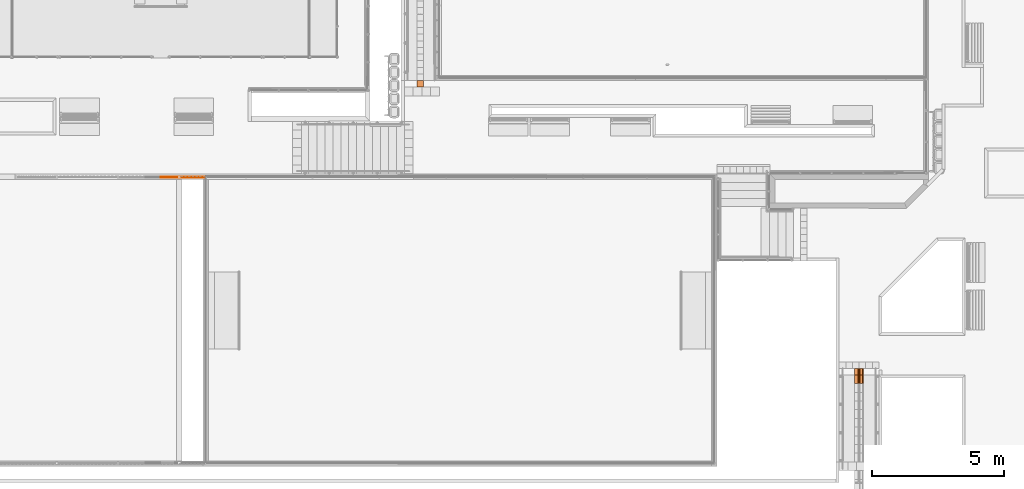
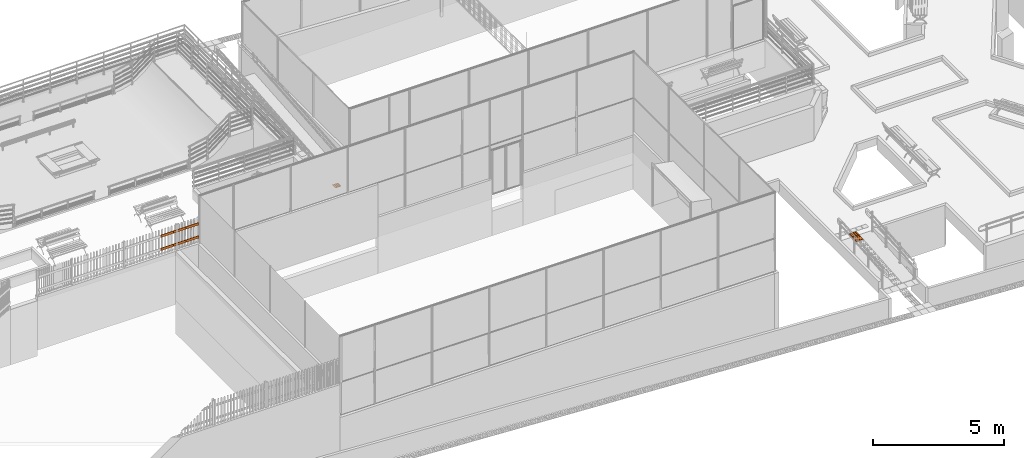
# One storey, part 222 of 237: 9 proxies.
"""IFC2X3 building model written with IfcOpenShell, lengths in millimetres."""

import ifcopenshell
import ifcopenshell.guid

model = None  # the IFC model being written
_history = None  # IfcOwnerHistory: only IFC2X3 demands one
_inside = {}  # id of a spatial element -> (the spatial element, [elements in it])
_under = {}  # id of a project, library or spatial element -> (it, [spatial elements below it])
_declared = {}  # id of a project -> (the project, [libraries it declares])
_typed = {}  # id of a type object -> (the type object, [elements of that type])
_made_of = {}  # id of a material, layer set ... -> (it, [elements and type objects made of it])


def new_model(schema):
    """Start an empty IFC model of exactly this schema.

    Asked for "IFC4X3", IfcOpenShell would pick the latest addendum, in which some entities
    have other attributes; the version numbers below select the first issue.
    IFC2X3 requires an IfcOwnerHistory on every rooted entity: one is made here for all.
    """
    global model, _history
    if schema == "IFC4X3":
        model = ifcopenshell.file(schema_version=(4, 3, 0, 0))
    else:
        model = ifcopenshell.file(schema=schema)
    _inside.clear()
    _under.clear()
    _declared.clear()
    _typed.clear()
    _made_of.clear()
    _history = None
    if model.schema == "IFC2X3":
        org = make("IfcOrganization", Name="unknown")
        user = make(
            "IfcPersonAndOrganization",
            ThePerson=make("IfcPerson", FamilyName="unknown"),
            TheOrganization=org,
        )
        app = make(
            "IfcApplication",
            ApplicationDeveloper=org,
            Version="unknown",
            ApplicationFullName="unknown",
            ApplicationIdentifier="unknown",
        )
        _history = make(
            "IfcOwnerHistory",
            OwningUser=user,
            OwningApplication=app,
            ChangeAction="ADDED",
            CreationDate=0,
        )
    return model


def make(cls, **values):
    """One entity of the class cls with the attributes given. An attribute that is None is left unset."""
    return model.create_entity(
        cls, **{name: value for name, value in values.items() if value is not None}
    )


def entity(cls, *values):
    """Any entity or typed value of the class cls, its attributes in the order of the schema. None: left unset."""
    e = model.create_entity(cls)
    for i, value in enumerate(values):
        if value is not None:
            e[i] = value
    return e


def rooted(cls, **values):
    """An entity with a GlobalId (a new one), such as an element, a storey or a relation."""
    return make(cls, GlobalId=ifcopenshell.guid.new(), OwnerHistory=_history, **values)


def si_unit(unit_type, name, prefix=None):
    """IfcSIUnit, for example si_unit("LENGTHUNIT", "METRE", prefix="MILLI")."""
    return make("IfcSIUnit", UnitType=unit_type, Prefix=prefix, Name=name)


def converted_unit(unit_type, name, factor, base, dimensions=None, offset=None):
    """IfcConversionBasedUnit, such as the inch: factor (a typed value) times the base unit."""
    return make(
        "IfcConversionBasedUnit"
        if offset is None
        else "IfcConversionBasedUnitWithOffset",
        ConversionOffset=offset,
        Dimensions=None
        if dimensions is None
        else entity("IfcDimensionalExponents", *dimensions),
        UnitType=unit_type,
        Name=name,
        ConversionFactor=make(
            "IfcMeasureWithUnit", ValueComponent=factor, UnitComponent=base
        ),
    )


def derived_unit(unit_type, elements):
    """IfcDerivedUnit: a product of units, each with its exponent."""
    return make(
        "IfcDerivedUnit",
        Elements=[
            make("IfcDerivedUnitElement", Unit=unit, Exponent=power)
            for unit, power in elements
        ],
        UnitType=unit_type,
    )


def money_unit(currency):
    """IfcMonetaryUnit."""
    return make("IfcMonetaryUnit", Currency=currency)


def assignment(units):
    """IfcUnitAssignment: the units of a project."""
    return None if units is None else make("IfcUnitAssignment", Units=units)


def point(xyz):
    """IfcCartesianPoint."""
    return None if xyz is None else make("IfcCartesianPoint", Coordinates=xyz)


def direction(xyz):
    """IfcDirection."""
    return None if xyz is None else make("IfcDirection", DirectionRatios=xyz)


def frame(location, z_axis=None, x_axis=None):
    """IfcAxis2Placement3D, a coordinate frame: its origin and axes. An axis left out is left unset."""
    return make(
        "IfcAxis2Placement3D",
        Location=point(location),
        Axis=direction(z_axis),
        RefDirection=direction(x_axis),
    )


def origin_with_axes():
    """The frame at (0, 0, 0) with the z axis (0, 0, 1) and the x axis (1, 0, 0) written out."""
    return frame((0.0, 0.0, 0.0), z_axis=(0.0, 0.0, 1.0), x_axis=(1.0, 0.0, 0.0))


def place(relative_to, where):
    """IfcLocalPlacement: puts the frame where relative to a parent placement (None: the world)."""
    return make(
        "IfcLocalPlacement", PlacementRelTo=relative_to, RelativePlacement=where
    )


def context(
    kind, dimensions, precision=None, world=None, true_north=None, identifier=None
):
    """IfcGeometricRepresentationContext, for example the 3D "Model" context."""
    return make(
        "IfcGeometricRepresentationContext",
        ContextIdentifier=identifier,
        ContextType=kind,
        CoordinateSpaceDimension=dimensions,
        Precision=precision,
        WorldCoordinateSystem=world,
        TrueNorth=true_north,
    )


def subcontext(parent, identifier, kind, view, scale=None):
    """IfcGeometricRepresentationSubContext, for example "Body" below "Model"."""
    return make(
        "IfcGeometricRepresentationSubContext",
        ContextIdentifier=identifier,
        ContextType=kind,
        ParentContext=parent,
        TargetScale=scale,
        TargetView=view,
    )


def project(units=None, contexts=None):
    """IfcProject with its units and contexts."""
    return rooted(
        "IfcProject",
        Name="project",
        RepresentationContexts=contexts,
        UnitsInContext=assignment(units),
    )


def spatial(cls, under=None, at=None, **own):
    """A site, building, storey or space (cls), placed at a placement, below another one or the project."""
    s = rooted(cls, ObjectPlacement=at, **own)
    if under is not None:
        _under.setdefault(under.id(), (under, []))[1].append(s)
    return s


def faces_of(points, faces, orient=None, outer=None):
    """IfcFace entities. A face is a list of loops; a loop is a list of indices into points, from 0.

    orient and outer hold one flag for each loop. By default every Orientation is true, the
    first loop of a face is its IfcFaceOuterBound and the others are IfcFaceBound.
    """
    made = []
    for i, loops in enumerate(faces):
        bounds = []
        for j, loop in enumerate(loops):
            is_outer = j == 0 if outer is None else outer[i][j]
            bounds.append(
                make(
                    "IfcFaceOuterBound" if is_outer else "IfcFaceBound",
                    Bound=make("IfcPolyLoop", Polygon=[points[k] for k in loop]),
                    Orientation=True if orient is None else orient[i][j],
                )
            )
        made.append(make("IfcFace", Bounds=bounds))
    return made


def open_shell(faces, orient=None, outer=None):
    """The faces of one IfcOpenShell. surface_model builds it on its shared points."""
    return ("IfcOpenShell", faces, orient, outer)


def faceted_brep(points, faces, orient=None, outer=None, voids=None):
    """IfcFacetedBrep: a solid bounded by flat faces; with voids (closed shells), ...WithVoids."""
    shared = [point(p) for p in points]
    hull = make("IfcClosedShell", CfsFaces=faces_of(shared, faces, orient, outer))
    if voids is None:
        return make("IfcFacetedBrep", Outer=hull)
    return make(
        "IfcFacetedBrepWithVoids",
        Outer=hull,
        Voids=[
            make(cls, CfsFaces=faces_of(shared, fs, o, b)) for cls, fs, o, b in voids
        ],
    )


def surface_model(cls, points, shells):
    """IfcFaceBasedSurfaceModel or IfcShellBasedSurfaceModel (cls): surfaces that need not close."""
    shared = [point(p) for p in points]
    made = [make(c, CfsFaces=faces_of(shared, fs, o, b)) for c, fs, o, b in shells]
    if cls == "IfcFaceBasedSurfaceModel":
        return make(cls, FbsmFaces=made)
    return make(cls, SbsmBoundary=made)


def shape(context_of_items, identifier, shape_type, items):
    """IfcShapeRepresentation: the items that make up one representation, for example the "Body"."""
    return make(
        "IfcShapeRepresentation",
        ContextOfItems=context_of_items,
        RepresentationIdentifier=identifier,
        RepresentationType=shape_type,
        Items=items,
    )


def made_of(thing, what):
    """Note that an element or type object is made of a material, layer set ...; save() writes the relation."""
    if what is not None:
        _made_of.setdefault(what.id(), (what, []))[1].append(thing)
    return thing


def type_object(cls, material=None, **own):
    """A type object (cls), such as IfcWallType, which elements share."""
    return made_of(rooted(cls, **own), material)


def element(
    cls,
    number,
    at=None,
    inside=None,
    cuts=None,
    type_object=None,
    material=None,
    context=None,
    identifier="Body",
    shape_type=None,
    held_by="IfcProductDefinitionShape",
    body=None,
    shapes=None,
    **own,
):
    """One element of the class cls, such as IfcWall. Its Tag is "e" and its number.

    at: its placement. inside: the storey or other place that contains it. cuts: it is an
    opening in that element (IfcRelVoidsElement). A single representation is given by context,
    identifier, shape_type and body (its items); several are given by shapes. held_by: the class
    of the entity that holds the representations. save() writes the other relations.
    """
    e = rooted(cls, Tag="e%d" % number, ObjectPlacement=at, **own)
    if body is not None:
        shapes = [shape(context, identifier, shape_type, body)]
    if shapes is not None:
        e.Representation = make(held_by, Representations=shapes)
    if inside is not None:
        _inside.setdefault(inside.id(), (inside, []))[1].append(e)
    if cuts is not None:
        rooted(
            "IfcRelVoidsElement", RelatingBuildingElement=cuts, RelatedOpeningElement=e
        )
    if type_object is not None:
        _typed.setdefault(type_object.id(), (type_object, []))[1].append(e)
    return made_of(e, material)


def aggregate(whole, parts):
    """IfcRelAggregates: a whole, such as a stair, and the parts it consists of."""
    return rooted("IfcRelAggregates", RelatingObject=whole, RelatedObjects=parts)


def save(model, path):
    """Write the relations noted so far, then the file.

    IfcRelAggregates (storeys below a building ...), IfcRelContainedInSpatialStructure (elements
    in a storey), IfcRelDefinesByType, IfcRelAssociatesMaterial and IfcRelDeclares: one each for
    every whole, place, type object, material and project.
    """
    for whole, parts in _under.values():
        aggregate(whole, parts)
    for where, things in _inside.values():
        rooted(
            "IfcRelContainedInSpatialStructure",
            RelatedElements=things,
            RelatingStructure=where,
        )
    for kind, things in _typed.values():
        rooted("IfcRelDefinesByType", RelatedObjects=things, RelatingType=kind)
    for what, things in _made_of.values():
        rooted("IfcRelAssociatesMaterial", RelatedObjects=things, RelatingMaterial=what)
    for by, libraries in _declared.values():
        rooted("IfcRelDeclares", RelatingContext=by, RelatedDefinitions=libraries)
    model.write(path)


model = new_model("IFC2X3")

# Units and contexts
model_context = context("Model", 3, precision=0.01, world=origin_with_axes(), true_north=direction((0.0, 1.0)))
body_context = subcontext(model_context, "Body", "Model", "MODEL_VIEW")
ifc_project = project(units=[si_unit("LENGTHUNIT", "METRE", prefix="MILLI"), si_unit("AREAUNIT", "SQUARE_METRE"), si_unit("VOLUMEUNIT", "CUBIC_METRE"), converted_unit("PLANEANGLEUNIT", "DEGREE", entity("IfcPlaneAngleMeasure", 0.0174532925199), si_unit("PLANEANGLEUNIT", "RADIAN"), dimensions=[0, 0, 0, 0, 0, 0, 0]), money_unit("USD"), converted_unit("TIMEUNIT", "Year", entity("IfcTimeMeasure", 31556926.0), si_unit("TIMEUNIT", "SECOND"), dimensions=[0, 0, 1, 0, 0, 0, 0]), si_unit("MASSUNIT", "GRAM", prefix="KILO"), si_unit("THERMODYNAMICTEMPERATUREUNIT", "DEGREE_CELSIUS"), si_unit("LUMINOUSINTENSITYUNIT", "LUMEN"), si_unit("ENERGYUNIT", "JOULE", prefix="MEGA"), derived_unit("THERMALCONDUCTANCEUNIT", [(si_unit("POWERUNIT", "WATT"), 1), (si_unit("LENGTHUNIT", "METRE"), -1), (si_unit("THERMODYNAMICTEMPERATUREUNIT", "KELVIN"), -1)]), derived_unit("SPECIFICHEATCAPACITYUNIT", [(si_unit("ENERGYUNIT", "JOULE"), 1), (si_unit("MASSUNIT", "GRAM", prefix="KILO"), -1), (si_unit("THERMODYNAMICTEMPERATUREUNIT", "KELVIN"), -1)]), derived_unit("MASSDENSITYUNIT", [(si_unit("MASSUNIT", "GRAM", prefix="KILO"), 1), (si_unit("VOLUMEUNIT", "CUBIC_METRE"), -1)])], contexts=[model_context])

# Site, building, storey
site_placement = place(None, origin_with_axes())
site = spatial("IfcSite", under=ifc_project, at=site_placement, Name="Local", CompositionType="ELEMENT")
building_placement = place(site_placement, origin_with_axes())
building = spatial("IfcBuilding", under=site, at=building_placement, Name="Construção", CompositionType="ELEMENT")
storey_placement = place(building_placement, origin_with_axes())
storey = spatial("IfcBuildingStorey", under=building, at=storey_placement, Name="Pavimento Térreo", CompositionType="ELEMENT", Elevation=0.0)

# Proxies
building_element_proxy_type_1 = type_object("IfcBuildingElementProxyType", Name="Piso Direcional 27", PredefinedType="NOTDEFINED")
proxy_1_placement = place(storey_placement, frame((84148.2330476, 15751.0214785, -5022.51904911), z_axis=(0.0, 0.0, 1.0), x_axis=(0.0, 1.0, 0.0)))
element("IfcBuildingElementProxy", 1, at=proxy_1_placement, inside=storey, type_object=building_element_proxy_type_1, Name="Objeto-0055", context=body_context, shape_type="SurfaceModel", body=[
    surface_model("IfcShellBasedSurfaceModel", [(-0.333594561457, -47.258225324, 4.01468455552), (319.875022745, -47.258225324, 30.621968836), (319.322968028, -41.665004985, 37.2657388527), (-0.885649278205, -41.665004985, 10.6584545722)], [open_shell([[[0, 1, 2, 3]]])]),
    surface_model("IfcShellBasedSurfaceModel", [(320.979132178, -153.529411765, 17.3344288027), (320.979132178, 176.470588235, 17.3344288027), (319.875022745, 176.470588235, 30.621968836), (319.875022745, 154.097706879, 30.621968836), (319.322968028, 148.50448654, 37.2657388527), (319.322968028, 126.131605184, 37.2657388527), (319.875022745, 120.538384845, 30.621968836), (319.875022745, 70.1994017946, 30.621968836), (319.322968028, 64.6061814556, 37.2657388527), (319.322968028, 42.2333000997, 37.2657388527), (319.875022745, 36.6400797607, 30.621968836), (319.875022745, -13.6989032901, 30.621968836), (319.322968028, -19.2921236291, 37.2657388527), (319.322968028, -41.665004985, 37.2657388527), (319.875022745, -47.258225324, 30.621968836), (319.875022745, -97.5972083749, 30.621968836), (319.322968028, -103.190428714, 37.2657388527), (319.322968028, -125.56331007, 37.2657388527), (319.875022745, -131.156530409, 30.621968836), (319.875022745, -153.529411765, 30.621968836)], [open_shell([[[0, 1, 2, 3, 4, 5, 6, 7, 8, 9, 10, 11, 12, 13, 14, 15, 16, 17, 18, 19]]])]),
    surface_model("IfcShellBasedSurfaceModel", [(-0.885649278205, -19.2921236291, 10.6584545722), (319.322968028, -19.2921236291, 37.2657388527), (319.875022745, -13.6989032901, 30.621968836), (-0.333594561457, -13.6989032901, 4.01468455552)], [open_shell([[[0, 1, 2, 3]]])]),
    surface_model("IfcShellBasedSurfaceModel", [(-0.885649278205, -103.190428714, 10.6584545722), (319.322968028, -103.190428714, 37.2657388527), (319.875022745, -97.5972083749, 30.621968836), (-0.333594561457, -97.5972083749, 4.01468455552)], [open_shell([[[0, 1, 2, 3]]])]),
    surface_model("IfcShellBasedSurfaceModel", [(-0.885649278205, 64.6061814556, 10.6584545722), (319.322968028, 64.6061814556, 37.2657388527), (319.875022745, 70.1994017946, 30.621968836), (-0.333594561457, 70.1994017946, 4.01468455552)], [open_shell([[[0, 1, 2, 3]]])]),
    surface_model("IfcShellBasedSurfaceModel", [(-0.333594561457, 36.6400797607, 4.01468455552), (319.875022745, 36.6400797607, 30.621968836), (319.322968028, 42.2333000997, 37.2657388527), (-0.885649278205, 42.2333000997, 10.6584545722)], [open_shell([[[0, 1, 2, 3]]])]),
    surface_model("IfcShellBasedSurfaceModel", [(-0.333594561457, -131.156530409, 4.01468455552), (319.875022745, -131.156530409, 30.621968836), (319.322968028, -125.56331007, 37.2657388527), (-0.885649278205, -125.56331007, 10.6584545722)], [open_shell([[[0, 1, 2, 3]]])]),
    surface_model("IfcShellBasedSurfaceModel", [(-0.333594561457, 176.470588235, 4.01468455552), (-0.333594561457, 154.097706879, 4.01468455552), (319.875022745, 154.097706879, 30.621968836), (319.875022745, 176.470588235, 30.621968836)], [open_shell([[[0, 1, 2, 3]]])]),
    surface_model("IfcShellBasedSurfaceModel", [(-0.333594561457, 120.538384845, 4.01468455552), (319.875022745, 120.538384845, 30.621968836), (319.322968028, 126.131605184, 37.2657388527), (-0.885649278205, 126.131605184, 10.6584545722)], [open_shell([[[0, 1, 2, 3]]])]),
    surface_model("IfcShellBasedSurfaceModel", [(-0.885649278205, 148.50448654, 10.6584545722), (319.322968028, 148.50448654, 37.2657388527), (319.875022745, 154.097706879, 30.621968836), (-0.333594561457, 154.097706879, 4.01468455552)], [open_shell([[[0, 1, 2, 3]]])]),
    surface_model("IfcShellBasedSurfaceModel", [(-0.333594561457, 36.6400797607, 4.01468455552), (-0.333594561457, -13.6989032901, 4.01468455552), (319.875022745, -13.6989032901, 30.621968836), (319.875022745, 36.6400797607, 30.621968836)], [open_shell([[[0, 1, 2, 3]]])]),
    surface_model("IfcShellBasedSurfaceModel", [(-0.333594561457, 120.538384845, 4.01468455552), (-0.333594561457, 70.1994017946, 4.01468455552), (319.875022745, 70.1994017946, 30.621968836), (319.875022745, 120.538384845, 30.621968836)], [open_shell([[[0, 1, 2, 3]]])]),
    surface_model("IfcShellBasedSurfaceModel", [(-0.885649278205, 148.50448654, 10.6584545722), (-0.885649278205, 126.131605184, 10.6584545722), (319.322968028, 126.131605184, 37.2657388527), (319.322968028, 148.50448654, 37.2657388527)], [open_shell([[[0, 1, 2, 3]]])]),
    surface_model("IfcShellBasedSurfaceModel", [(-0.333594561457, 120.538384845, 4.01468455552), (-0.885649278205, 126.131605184, 10.6584545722), (-0.885649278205, 148.50448654, 10.6584545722), (-0.333594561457, 154.097706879, 4.01468455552), (-0.333594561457, 176.470588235, 4.01468455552), (0.770514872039, 176.470588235, -9.27285547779), (0.770514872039, -153.529411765, -9.27285547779), (-0.333594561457, -153.529411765, 4.01468455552), (-0.333594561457, -131.156530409, 4.01468455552), (-0.885649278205, -125.56331007, 10.6584545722), (-0.885649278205, -103.190428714, 10.6584545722), (-0.333594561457, -97.5972083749, 4.01468455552), (-0.333594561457, -47.258225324, 4.01468455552), (-0.885649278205, -41.665004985, 10.6584545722), (-0.885649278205, -19.2921236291, 10.6584545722), (-0.333594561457, -13.6989032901, 4.01468455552), (-0.333594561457, 36.6400797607, 4.01468455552), (-0.885649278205, 42.2333000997, 10.6584545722), (-0.885649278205, 64.6061814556, 10.6584545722), (-0.333594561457, 70.1994017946, 4.01468455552)], [open_shell([[[0, 1, 2, 3, 4, 5, 6, 7, 8, 9, 10, 11, 12, 13, 14, 15, 16, 17, 18, 19]]])]),
    surface_model("IfcShellBasedSurfaceModel", [(319.322968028, -41.665004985, 37.2657388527), (319.322968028, -19.2921236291, 37.2657388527), (-0.885649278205, -19.2921236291, 10.6584545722), (-0.885649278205, -41.665004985, 10.6584545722)], [open_shell([[[0, 1, 2, 3]]])]),
    surface_model("IfcShellBasedSurfaceModel", [(-0.333594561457, -47.258225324, 4.01468455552), (-0.333594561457, -97.5972083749, 4.01468455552), (319.875022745, -97.5972083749, 30.621968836), (319.875022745, -47.258225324, 30.621968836)], [open_shell([[[0, 1, 2, 3]]])]),
    surface_model("IfcShellBasedSurfaceModel", [(319.322968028, 42.2333000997, 37.2657388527), (319.322968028, 64.6061814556, 37.2657388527), (-0.885649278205, 64.6061814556, 10.6584545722), (-0.885649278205, 42.2333000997, 10.6584545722)], [open_shell([[[0, 1, 2, 3]]])]),
    surface_model("IfcShellBasedSurfaceModel", [(319.322968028, -125.56331007, 37.2657388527), (319.322968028, -103.190428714, 37.2657388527), (-0.885649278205, -103.190428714, 10.6584545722), (-0.885649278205, -125.56331007, 10.6584545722)], [open_shell([[[0, 1, 2, 3]]])]),
    surface_model("IfcShellBasedSurfaceModel", [(320.979132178, 176.470588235, 17.3344288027), (0.770514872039, 176.470588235, -9.27285547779), (-0.333594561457, 176.470588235, 4.01468455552), (319.875022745, 176.470588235, 30.621968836)], [open_shell([[[0, 1, 2, 3]]])]),
    surface_model("IfcShellBasedSurfaceModel", [(320.979132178, -153.529411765, 17.3344288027), (0.770514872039, -153.529411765, -9.27285547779), (0.770514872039, 176.470588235, -9.27285547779), (320.979132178, 176.470588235, 17.3344288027)], [open_shell([[[0, 1, 2, 3]]])]),
    surface_model("IfcShellBasedSurfaceModel", [(319.875022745, -153.529411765, 30.621968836), (319.875022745, -131.156530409, 30.621968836), (-0.333594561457, -131.156530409, 4.01468455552), (-0.333594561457, -153.529411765, 4.01468455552)], [open_shell([[[0, 1, 2, 3]]])]),
    surface_model("IfcShellBasedSurfaceModel", [(0.770514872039, -153.529411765, -9.27285547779), (320.979132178, -153.529411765, 17.3344288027), (319.875022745, -153.529411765, 30.621968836), (-0.333594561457, -153.529411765, 4.01468455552)], [open_shell([[[0, 1, 2, 3]]])]),
])
proxy_2_placement = place(storey_placement, frame((84148.2330476, 16072.2914521, -4998.00685383), z_axis=(0.0, 0.0, 1.0), x_axis=(0.0, 1.0, 0.0)))
element("IfcBuildingElementProxy", 2, at=proxy_2_placement, inside=storey, type_object=building_element_proxy_type_1, Name="Objeto-0055", context=body_context, shape_type="SurfaceModel", body=[
    surface_model("IfcShellBasedSurfaceModel", [(0.0, -47.258225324, 4.02852049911), (249.51992213, -47.258225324, 4.02852049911), (249.51992213, -41.665004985, 10.6951871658), (0.0, -41.665004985, 10.6951871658)], [open_shell([[[0, 1, 2, 3]]])]),
    surface_model("IfcShellBasedSurfaceModel", [(249.51992213, -153.529411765, -9.30481283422), (249.51992213, 176.470588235, -9.30481283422), (249.51992213, 176.470588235, 4.02852049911), (249.51992213, 154.097706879, 4.02852049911), (249.51992213, 148.50448654, 10.6951871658), (249.51992213, 126.131605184, 10.6951871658), (249.51992213, 120.538384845, 4.02852049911), (249.51992213, 70.1994017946, 4.02852049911), (249.51992213, 64.6061814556, 10.6951871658), (249.51992213, 42.2333000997, 10.6951871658), (249.51992213, 36.6400797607, 4.02852049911), (249.51992213, -13.6989032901, 4.02852049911), (249.51992213, -19.2921236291, 10.6951871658), (249.51992213, -41.665004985, 10.6951871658), (249.51992213, -47.258225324, 4.02852049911), (249.51992213, -97.5972083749, 4.02852049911), (249.51992213, -103.190428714, 10.6951871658), (249.51992213, -125.56331007, 10.6951871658), (249.51992213, -131.156530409, 4.02852049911), (249.51992213, -153.529411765, 4.02852049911)], [open_shell([[[0, 1, 2, 3, 4, 5, 6, 7, 8, 9, 10, 11, 12, 13, 14, 15, 16, 17, 18, 19]]])]),
    surface_model("IfcShellBasedSurfaceModel", [(0.0, -19.2921236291, 10.6951871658), (249.51992213, -19.2921236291, 10.6951871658), (249.51992213, -13.6989032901, 4.02852049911), (0.0, -13.6989032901, 4.02852049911)], [open_shell([[[0, 1, 2, 3]]])]),
    surface_model("IfcShellBasedSurfaceModel", [(0.0, -103.190428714, 10.6951871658), (249.51992213, -103.190428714, 10.6951871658), (249.51992213, -97.5972083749, 4.02852049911), (0.0, -97.5972083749, 4.02852049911)], [open_shell([[[0, 1, 2, 3]]])]),
    surface_model("IfcShellBasedSurfaceModel", [(0.0, 64.6061814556, 10.6951871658), (249.51992213, 64.6061814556, 10.6951871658), (249.51992213, 70.1994017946, 4.02852049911), (0.0, 70.1994017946, 4.02852049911)], [open_shell([[[0, 1, 2, 3]]])]),
    surface_model("IfcShellBasedSurfaceModel", [(0.0, 36.6400797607, 4.02852049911), (249.51992213, 36.6400797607, 4.02852049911), (249.51992213, 42.2333000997, 10.6951871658), (0.0, 42.2333000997, 10.6951871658)], [open_shell([[[0, 1, 2, 3]]])]),
    surface_model("IfcShellBasedSurfaceModel", [(0.0, -131.156530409, 4.02852049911), (249.51992213, -131.156530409, 4.02852049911), (249.51992213, -125.56331007, 10.6951871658), (0.0, -125.56331007, 10.6951871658)], [open_shell([[[0, 1, 2, 3]]])]),
    surface_model("IfcShellBasedSurfaceModel", [(0.0, 176.470588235, 4.02852049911), (0.0, 154.097706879, 4.02852049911), (249.51992213, 154.097706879, 4.02852049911), (249.51992213, 176.470588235, 4.02852049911)], [open_shell([[[0, 1, 2, 3]]])]),
    surface_model("IfcShellBasedSurfaceModel", [(0.0, 120.538384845, 4.02852049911), (249.51992213, 120.538384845, 4.02852049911), (249.51992213, 126.131605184, 10.6951871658), (0.0, 126.131605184, 10.6951871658)], [open_shell([[[0, 1, 2, 3]]])]),
    surface_model("IfcShellBasedSurfaceModel", [(0.0, 148.50448654, 10.6951871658), (249.51992213, 148.50448654, 10.6951871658), (249.51992213, 154.097706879, 4.02852049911), (0.0, 154.097706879, 4.02852049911)], [open_shell([[[0, 1, 2, 3]]])]),
    surface_model("IfcShellBasedSurfaceModel", [(0.0, 36.6400797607, 4.02852049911), (0.0, -13.6989032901, 4.02852049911), (249.51992213, -13.6989032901, 4.02852049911), (249.51992213, 36.6400797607, 4.02852049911)], [open_shell([[[0, 1, 2, 3]]])]),
    surface_model("IfcShellBasedSurfaceModel", [(0.0, 120.538384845, 4.02852049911), (0.0, 70.1994017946, 4.02852049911), (249.51992213, 70.1994017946, 4.02852049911), (249.51992213, 120.538384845, 4.02852049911)], [open_shell([[[0, 1, 2, 3]]])]),
    surface_model("IfcShellBasedSurfaceModel", [(0.0, 148.50448654, 10.6951871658), (0.0, 126.131605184, 10.6951871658), (249.51992213, 126.131605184, 10.6951871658), (249.51992213, 148.50448654, 10.6951871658)], [open_shell([[[0, 1, 2, 3]]])]),
    surface_model("IfcShellBasedSurfaceModel", [(0.0, 120.538384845, 4.02852049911), (0.0, 126.131605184, 10.6951871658), (0.0, 148.50448654, 10.6951871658), (0.0, 154.097706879, 4.02852049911), (0.0, 176.470588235, 4.02852049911), (0.0, 176.470588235, -9.30481283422), (0.0, -153.529411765, -9.30481283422), (0.0, -153.529411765, 4.02852049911), (0.0, -131.156530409, 4.02852049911), (0.0, -125.56331007, 10.6951871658), (0.0, -103.190428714, 10.6951871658), (0.0, -97.5972083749, 4.02852049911), (0.0, -47.258225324, 4.02852049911), (0.0, -41.665004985, 10.6951871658), (0.0, -19.2921236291, 10.6951871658), (0.0, -13.6989032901, 4.02852049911), (0.0, 36.6400797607, 4.02852049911), (0.0, 42.2333000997, 10.6951871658), (0.0, 64.6061814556, 10.6951871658), (0.0, 70.1994017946, 4.02852049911)], [open_shell([[[0, 1, 2, 3, 4, 5, 6, 7, 8, 9, 10, 11, 12, 13, 14, 15, 16, 17, 18, 19]]])]),
    surface_model("IfcShellBasedSurfaceModel", [(249.51992213, -41.665004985, 10.6951871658), (249.51992213, -19.2921236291, 10.6951871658), (0.0, -19.2921236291, 10.6951871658), (0.0, -41.665004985, 10.6951871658)], [open_shell([[[0, 1, 2, 3]]])]),
    surface_model("IfcShellBasedSurfaceModel", [(0.0, -47.258225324, 4.02852049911), (0.0, -97.5972083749, 4.02852049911), (249.51992213, -97.5972083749, 4.02852049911), (249.51992213, -47.258225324, 4.02852049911)], [open_shell([[[0, 1, 2, 3]]])]),
    surface_model("IfcShellBasedSurfaceModel", [(249.51992213, 42.2333000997, 10.6951871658), (249.51992213, 64.6061814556, 10.6951871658), (0.0, 64.6061814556, 10.6951871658), (0.0, 42.2333000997, 10.6951871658)], [open_shell([[[0, 1, 2, 3]]])]),
    surface_model("IfcShellBasedSurfaceModel", [(249.51992213, -125.56331007, 10.6951871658), (249.51992213, -103.190428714, 10.6951871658), (0.0, -103.190428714, 10.6951871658), (0.0, -125.56331007, 10.6951871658)], [open_shell([[[0, 1, 2, 3]]])]),
    surface_model("IfcShellBasedSurfaceModel", [(249.51992213, 176.470588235, -9.30481283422), (0.0, 176.470588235, -9.30481283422), (0.0, 176.470588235, 4.02852049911), (249.51992213, 176.470588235, 4.02852049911)], [open_shell([[[0, 1, 2, 3]]])]),
    surface_model("IfcShellBasedSurfaceModel", [(249.51992213, -153.529411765, -9.30481283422), (0.0, -153.529411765, -9.30481283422), (0.0, 176.470588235, -9.30481283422), (249.51992213, 176.470588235, -9.30481283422)], [open_shell([[[0, 1, 2, 3]]])]),
    surface_model("IfcShellBasedSurfaceModel", [(249.51992213, -153.529411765, 4.02852049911), (249.51992213, -131.156530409, 4.02852049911), (0.0, -131.156530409, 4.02852049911), (0.0, -153.529411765, 4.02852049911)], [open_shell([[[0, 1, 2, 3]]])]),
    surface_model("IfcShellBasedSurfaceModel", [(0.0, -153.529411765, -9.30481283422), (249.51992213, -153.529411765, -9.30481283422), (249.51992213, -153.529411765, 4.02852049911), (0.0, -153.529411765, 4.02852049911)], [open_shell([[[0, 1, 2, 3]]])]),
])
proxy_3_placement = place(storey_placement, frame((67571.980088, 26942.3085044, -3504.07436082), z_axis=(0.0, 0.0, 1.0), x_axis=(0.0, 1.0, 0.0)))
element("IfcBuildingElementProxy", 3, at=proxy_3_placement, inside=storey, type_object=building_element_proxy_type_1, Name="Objeto-0055", context=body_context, shape_type="SurfaceModel", body=[
    surface_model("IfcShellBasedSurfaceModel", [(0.0, -35.8016858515, 4.02852049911), (251.227104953, -35.8016858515, 4.02852049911), (251.227104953, -31.5643977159, 10.6951871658), (0.0, -31.5643977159, 10.6951871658)], [open_shell([[[0, 1, 2, 3]]])]),
    surface_model("IfcShellBasedSurfaceModel", [(251.227104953, -116.310160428, -9.30481283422), (251.227104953, 133.689839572, -9.30481283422), (251.227104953, 133.689839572, 4.02852049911), (251.227104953, 116.74068703, 4.02852049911), (251.227104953, 112.503398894, 10.6951871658), (251.227104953, 95.5542463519, 10.6951871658), (251.227104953, 91.3169582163, 4.02852049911), (251.227104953, 53.1813649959, 4.02852049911), (251.227104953, 48.9440768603, 10.6951871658), (251.227104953, 31.994924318, 10.6951871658), (251.227104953, 27.7576361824, 4.02852049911), (251.227104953, -10.377957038, 4.02852049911), (251.227104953, -14.6152451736, 10.6951871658), (251.227104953, -31.5643977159, 10.6951871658), (251.227104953, -35.8016858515, 4.02852049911), (251.227104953, -73.9372790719, 4.02852049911), (251.227104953, -78.1745672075, 10.6951871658), (251.227104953, -95.1237197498, 10.6951871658), (251.227104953, -99.3610078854, 4.02852049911), (251.227104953, -116.310160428, 4.02852049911)], [open_shell([[[0, 1, 2, 3, 4, 5, 6, 7, 8, 9, 10, 11, 12, 13, 14, 15, 16, 17, 18, 19]]])]),
    surface_model("IfcShellBasedSurfaceModel", [(0.0, -14.6152451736, 10.6951871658), (251.227104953, -14.6152451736, 10.6951871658), (251.227104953, -10.377957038, 4.02852049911), (0.0, -10.377957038, 4.02852049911)], [open_shell([[[0, 1, 2, 3]]])]),
    surface_model("IfcShellBasedSurfaceModel", [(0.0, -78.1745672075, 10.6951871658), (251.227104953, -78.1745672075, 10.6951871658), (251.227104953, -73.9372790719, 4.02852049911), (0.0, -73.9372790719, 4.02852049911)], [open_shell([[[0, 1, 2, 3]]])]),
    surface_model("IfcShellBasedSurfaceModel", [(0.0, 48.9440768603, 10.6951871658), (251.227104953, 48.9440768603, 10.6951871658), (251.227104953, 53.1813649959, 4.02852049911), (0.0, 53.1813649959, 4.02852049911)], [open_shell([[[0, 1, 2, 3]]])]),
    surface_model("IfcShellBasedSurfaceModel", [(0.0, 27.7576361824, 4.02852049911), (251.227104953, 27.7576361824, 4.02852049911), (251.227104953, 31.994924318, 10.6951871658), (0.0, 31.994924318, 10.6951871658)], [open_shell([[[0, 1, 2, 3]]])]),
    surface_model("IfcShellBasedSurfaceModel", [(0.0, -99.3610078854, 4.02852049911), (251.227104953, -99.3610078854, 4.02852049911), (251.227104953, -95.1237197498, 10.6951871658), (0.0, -95.1237197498, 10.6951871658)], [open_shell([[[0, 1, 2, 3]]])]),
    surface_model("IfcShellBasedSurfaceModel", [(0.0, 133.689839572, 4.02852049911), (0.0, 116.74068703, 4.02852049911), (251.227104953, 116.74068703, 4.02852049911), (251.227104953, 133.689839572, 4.02852049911)], [open_shell([[[0, 1, 2, 3]]])]),
    surface_model("IfcShellBasedSurfaceModel", [(0.0, 91.3169582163, 4.02852049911), (251.227104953, 91.3169582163, 4.02852049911), (251.227104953, 95.5542463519, 10.6951871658), (0.0, 95.5542463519, 10.6951871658)], [open_shell([[[0, 1, 2, 3]]])]),
    surface_model("IfcShellBasedSurfaceModel", [(0.0, 112.503398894, 10.6951871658), (251.227104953, 112.503398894, 10.6951871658), (251.227104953, 116.74068703, 4.02852049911), (0.0, 116.74068703, 4.02852049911)], [open_shell([[[0, 1, 2, 3]]])]),
    surface_model("IfcShellBasedSurfaceModel", [(0.0, 27.7576361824, 4.02852049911), (0.0, -10.377957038, 4.02852049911), (251.227104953, -10.377957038, 4.02852049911), (251.227104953, 27.7576361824, 4.02852049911)], [open_shell([[[0, 1, 2, 3]]])]),
    surface_model("IfcShellBasedSurfaceModel", [(0.0, 91.3169582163, 4.02852049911), (0.0, 53.1813649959, 4.02852049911), (251.227104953, 53.1813649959, 4.02852049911), (251.227104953, 91.3169582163, 4.02852049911)], [open_shell([[[0, 1, 2, 3]]])]),
    surface_model("IfcShellBasedSurfaceModel", [(0.0, 112.503398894, 10.6951871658), (0.0, 95.5542463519, 10.6951871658), (251.227104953, 95.5542463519, 10.6951871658), (251.227104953, 112.503398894, 10.6951871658)], [open_shell([[[0, 1, 2, 3]]])]),
    surface_model("IfcShellBasedSurfaceModel", [(0.0, 91.3169582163, 4.02852049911), (0.0, 95.5542463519, 10.6951871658), (0.0, 112.503398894, 10.6951871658), (0.0, 116.74068703, 4.02852049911), (0.0, 133.689839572, 4.02852049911), (0.0, 133.689839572, -9.30481283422), (0.0, -116.310160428, -9.30481283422), (0.0, -116.310160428, 4.02852049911), (0.0, -99.3610078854, 4.02852049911), (0.0, -95.1237197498, 10.6951871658), (0.0, -78.1745672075, 10.6951871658), (0.0, -73.9372790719, 4.02852049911), (0.0, -35.8016858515, 4.02852049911), (0.0, -31.5643977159, 10.6951871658), (0.0, -14.6152451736, 10.6951871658), (0.0, -10.377957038, 4.02852049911), (0.0, 27.7576361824, 4.02852049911), (0.0, 31.994924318, 10.6951871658), (0.0, 48.9440768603, 10.6951871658), (0.0, 53.1813649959, 4.02852049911)], [open_shell([[[0, 1, 2, 3, 4, 5, 6, 7, 8, 9, 10, 11, 12, 13, 14, 15, 16, 17, 18, 19]]])]),
    surface_model("IfcShellBasedSurfaceModel", [(251.227104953, -31.5643977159, 10.6951871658), (251.227104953, -14.6152451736, 10.6951871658), (0.0, -14.6152451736, 10.6951871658), (0.0, -31.5643977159, 10.6951871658)], [open_shell([[[0, 1, 2, 3]]])]),
    surface_model("IfcShellBasedSurfaceModel", [(0.0, -35.8016858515, 4.02852049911), (0.0, -73.9372790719, 4.02852049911), (251.227104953, -73.9372790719, 4.02852049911), (251.227104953, -35.8016858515, 4.02852049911)], [open_shell([[[0, 1, 2, 3]]])]),
    surface_model("IfcShellBasedSurfaceModel", [(251.227104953, 31.994924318, 10.6951871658), (251.227104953, 48.9440768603, 10.6951871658), (0.0, 48.9440768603, 10.6951871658), (0.0, 31.994924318, 10.6951871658)], [open_shell([[[0, 1, 2, 3]]])]),
    surface_model("IfcShellBasedSurfaceModel", [(251.227104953, -95.1237197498, 10.6951871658), (251.227104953, -78.1745672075, 10.6951871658), (0.0, -78.1745672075, 10.6951871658), (0.0, -95.1237197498, 10.6951871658)], [open_shell([[[0, 1, 2, 3]]])]),
    surface_model("IfcShellBasedSurfaceModel", [(251.227104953, 133.689839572, -9.30481283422), (0.0, 133.689839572, -9.30481283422), (0.0, 133.689839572, 4.02852049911), (251.227104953, 133.689839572, 4.02852049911)], [open_shell([[[0, 1, 2, 3]]])]),
    surface_model("IfcShellBasedSurfaceModel", [(251.227104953, -116.310160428, -9.30481283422), (0.0, -116.310160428, -9.30481283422), (0.0, 133.689839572, -9.30481283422), (251.227104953, 133.689839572, -9.30481283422)], [open_shell([[[0, 1, 2, 3]]])]),
    surface_model("IfcShellBasedSurfaceModel", [(251.227104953, -116.310160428, 4.02852049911), (251.227104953, -99.3610078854, 4.02852049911), (0.0, -99.3610078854, 4.02852049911), (0.0, -116.310160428, 4.02852049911)], [open_shell([[[0, 1, 2, 3]]])]),
    surface_model("IfcShellBasedSurfaceModel", [(0.0, -116.310160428, -9.30481283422), (251.227104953, -116.310160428, -9.30481283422), (251.227104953, -116.310160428, 4.02852049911), (0.0, -116.310160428, 4.02852049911)], [open_shell([[[0, 1, 2, 3]]])]),
])
building_element_proxy_type_2 = type_object("IfcBuildingElementProxyType", Name="FALTA", PredefinedType="NOTDEFINED")
proxy_4_placement = place(storey_placement, frame((59431.6965585, 23580.2435218, -1173.86351895), z_axis=(0.0, 0.0, 1.0), x_axis=(-1.0, 0.0, 0.0)))
element("IfcBuildingElementProxy", 4, at=proxy_4_placement, inside=storey, type_object=building_element_proxy_type_2, Name="Objeto-0044", context=body_context, shape_type="Brep", body=[
    faceted_brep([(1117.48391965, 23.3659780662, 195.226757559), (1676.22587947, 23.3659780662, 195.226757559), (1676.22587947, 23.3659780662, 312.362812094), (1117.48391965, 23.3659780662, 312.362812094), (1117.48391965, 46.7319561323, 195.226757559), (1676.22587947, 46.7319561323, 195.226757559), (1676.22587947, 46.7319561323, 312.362812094), (1117.48391965, 46.7319561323, 312.362812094)], [[[0, 1, 2, 3]], [[1, 0, 4, 5]], [[1, 5, 6, 2]], [[7, 3, 2, 6]], [[4, 0, 3, 7]], [[5, 4, 7, 6]]]),
])
proxy_5_placement = place(storey_placement, frame((59431.6965585, 23580.2435218, -1173.86351895), z_axis=(0.0, 0.0, 1.0), x_axis=(-1.0, 0.0, 0.0)))
element("IfcBuildingElementProxy", 5, at=proxy_5_placement, inside=storey, type_object=building_element_proxy_type_2, Name="Objeto-0044", context=body_context, shape_type="Brep", body=[
    faceted_brep([(1117.48391965, 23.3659780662, 927.327098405), (1117.48391965, 23.3659780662, 810.191043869), (1676.22587947, 23.3659780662, 810.191043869), (1676.22587947, 23.3659780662, 927.327098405), (1117.48391965, 46.7319561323, 927.327098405), (1117.48391965, 46.7319561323, 810.191043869), (1676.22587947, 46.7319561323, 810.191043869), (1676.22587947, 46.7319561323, 927.327098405)], [[[0, 1, 2, 3]], [[1, 0, 4, 5]], [[2, 1, 5, 6]], [[3, 2, 6, 7]], [[4, 0, 3, 7]], [[5, 4, 7, 6]]]),
])
proxy_6_placement = place(storey_placement, frame((59431.6965585, 23580.2435218, -1173.86351895), z_axis=(0.0, 0.0, 1.0), x_axis=(-1.0, 0.0, 0.0)))
element("IfcBuildingElementProxy", 6, at=proxy_6_placement, inside=storey, type_object=building_element_proxy_type_2, Name="Objeto-0044", context=body_context, shape_type="Brep", body=[
    faceted_brep([(558.741959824, 23.3659780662, 927.327098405), (558.741959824, 23.3659780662, 810.191043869), (1117.48391965, 23.3659780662, 810.191043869), (1117.48391965, 23.3659780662, 927.327098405), (558.741959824, 46.7319561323, 927.327098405), (558.741959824, 46.7319561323, 810.191043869), (1117.48391965, 46.7319561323, 810.191043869), (1117.48391965, 46.7319561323, 927.327098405)], [[[0, 1, 2, 3]], [[1, 0, 4, 5]], [[2, 1, 5, 6]], [[3, 2, 6, 7]], [[4, 0, 3, 7]], [[5, 4, 7, 6]]]),
])
proxy_7_placement = place(storey_placement, frame((59431.6965585, 23580.2435218, -1173.86351895), z_axis=(0.0, 0.0, 1.0), x_axis=(-1.0, 0.0, 0.0)))
element("IfcBuildingElementProxy", 7, at=proxy_7_placement, inside=storey, type_object=building_element_proxy_type_2, Name="Objeto-0044", context=body_context, shape_type="Brep", body=[
    faceted_brep([(0.0, 23.3659780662, 195.226757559), (558.741959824, 23.3659780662, 195.226757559), (558.741959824, 23.3659780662, 312.362812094), (0.0, 23.3659780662, 312.362812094), (0.0, 46.7319561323, 195.226757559), (558.741959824, 46.7319561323, 195.226757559), (558.741959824, 46.7319561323, 312.362812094), (0.0, 46.7319561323, 312.362812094)], [[[0, 1, 2, 3]], [[1, 0, 4, 5]], [[1, 5, 6, 2]], [[7, 3, 2, 6]], [[4, 0, 3, 7]], [[5, 4, 7, 6]]]),
])
proxy_8_placement = place(storey_placement, frame((59431.6965585, 23580.2435218, -1173.86351895), z_axis=(0.0, 0.0, 1.0), x_axis=(-1.0, 0.0, 0.0)))
element("IfcBuildingElementProxy", 8, at=proxy_8_placement, inside=storey, type_object=building_element_proxy_type_2, Name="Objeto-0044", context=body_context, shape_type="Brep", body=[
    faceted_brep([(558.741959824, 23.3659780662, 195.226757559), (1117.48391965, 23.3659780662, 195.226757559), (1117.48391965, 23.3659780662, 312.362812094), (558.741959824, 23.3659780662, 312.362812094), (558.741959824, 46.7319561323, 195.226757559), (1117.48391965, 46.7319561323, 195.226757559), (1117.48391965, 46.7319561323, 312.362812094), (558.741959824, 46.7319561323, 312.362812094)], [[[0, 1, 2, 3]], [[1, 0, 4, 5]], [[1, 5, 6, 2]], [[7, 3, 2, 6]], [[4, 0, 3, 7]], [[5, 4, 7, 6]]]),
])
proxy_9_placement = place(storey_placement, frame((59431.6965585, 23580.2435218, -1173.86351895), z_axis=(0.0, 0.0, 1.0), x_axis=(-1.0, 0.0, 0.0)))
element("IfcBuildingElementProxy", 9, at=proxy_9_placement, inside=storey, type_object=building_element_proxy_type_2, Name="Objeto-0044", context=body_context, shape_type="Brep", body=[
    faceted_brep([(0.0, 23.3659780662, 927.327098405), (0.0, 23.3659780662, 810.191043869), (558.741959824, 23.3659780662, 810.191043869), (558.741959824, 23.3659780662, 927.327098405), (0.0, 46.7319561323, 927.327098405), (0.0, 46.7319561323, 810.191043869), (558.741959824, 46.7319561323, 810.191043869), (558.741959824, 46.7319561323, 927.327098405)], [[[0, 1, 2, 3]], [[1, 0, 4, 5]], [[2, 1, 5, 6]], [[3, 2, 6, 7]], [[4, 0, 3, 7]], [[5, 4, 7, 6]]]),
])

save(model, "model.ifc")
